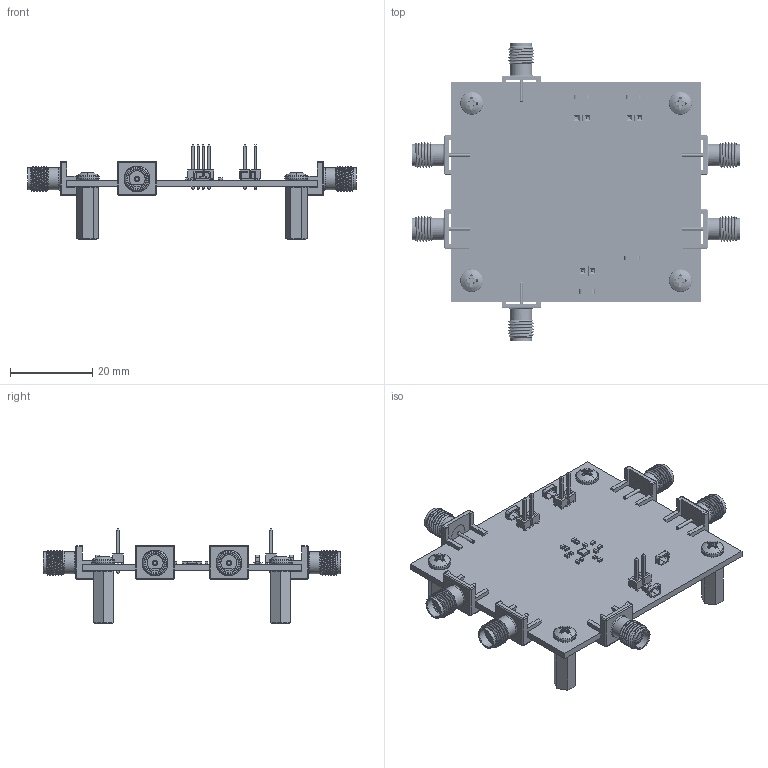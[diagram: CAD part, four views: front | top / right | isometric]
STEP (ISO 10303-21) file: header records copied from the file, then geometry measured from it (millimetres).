
FILE_DESCRIPTION(('Open CASCADE Model'),'2;1');
FILE_NAME('Open CASCADE Shape Model','2026-04-02T10:40:51',('Author'),( 'Open CASCADE'),'Open CASCADE STEP processor 7.5','Open CASCADE 7.5' ,'Unknown');
FILE_SCHEMA(('AUTOMOTIVE_DESIGN { 1 0 10303 214 1 1 1 1 }'));
Length unit declared in the file: millimetre
Products named in the file (70): PCB; Board; Open CASCADE STEP translator 7.5 1.1.1; C9; 6354159328; Extruded; 6354159168; C8; C6; C5; C3; C2; R4; 6353518080; 6353517920; R5; J8; Samtec-HMTSW-102-07-G-S-240; J7; J4; Conn_0732511150_CONN_RF_JACK; 1; 2; 3; 732511150; J2; TP3; 5019; R3; R6; C7; 6354159728; 6354159568; TP4; J5; U1; IC_TLV3801DSGR_WSON8; body; pns; logo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
Assembly tree (130 placements, depth 4):
  PCB
    Board
      Open CASCADE STEP translator 7.5 1.1.1
    C9
      6354159328  x2
        Extruded
      6354159168
        Extruded
    C8
      6354159328  x2
        Extruded
      6354159168
        Extruded
    C6
      6354159328  x2
        Extruded
      6354159168
        Extruded
    C5
      6354159328  x2
        Extruded
      6354159168
        Extruded
    C3
      6354159328  x2
        Extruded
      6354159168
        Extruded
    C2
      6354159328  x2
        Extruded
      6354159168
        Extruded
    R4
      6353518080  x2
        Extruded
      6353517920
        Extruded
    R5
      6353518080  x2
        Extruded
      6353517920
        Extruded
    J8
      Samtec-HMTSW-102-07-G-S-240
    J7
      Samtec-HMTSW-102-07-G-S-240
    J4
      Conn_0732511150_CONN_RF_JACK
        1
        2
        3
        732511150
    J2
      Conn_0732511150_CONN_RF_JACK
        1
        2
        3
        732511150
    TP3
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Bounding box: 80.01 x 72.39 x 22.91 mm (x, y, z)
Volume: 7818.1 mm3; surface area: 13697.6 mm2
Topology: 121 solids, 145 shells, 2888 faces, 7205 edges, 4666 vertices
Faces by surface type: plane 1661, cylinder 837, bspline 198, cone 122, sphere 36, torus 34
Full cylindrical faces by diameter (mm): 0.1 x1, 0.762 x12, 0.947 x12, 1.02 x6, 1.27 x6, 3.175 x4, 3.912 x18, 4.449 x12, 4.644 x6, 5.359 x12
Entity records: 44573 total; most frequent: CARTESIAN_POINT 16901, ORIENTED_EDGE 5742, DIRECTION 4624, EDGE_CURVE 2871, LINE 1964, VECTOR 1964, VERTEX_POINT 1876, AXIS2_PLACEMENT_3D 1330
